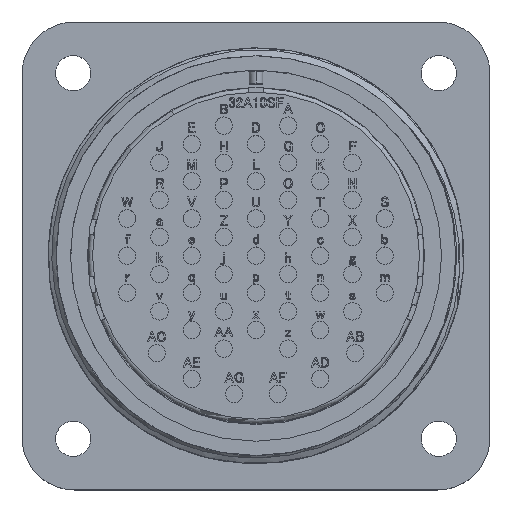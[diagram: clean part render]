
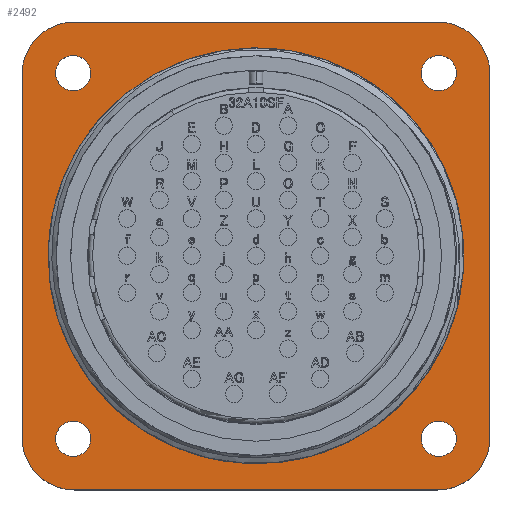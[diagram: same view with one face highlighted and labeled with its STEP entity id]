
A CAD part, top view. The second image highlights one B-rep face of the part: STEP entity #2492.
In plain terms, the highlighted planar face has unit normal (0, 0, 1).
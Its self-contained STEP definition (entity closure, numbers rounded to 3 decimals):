
#2492 = ADVANCED_FACE ( 'NONE', ( #12923, #63973, #73938, #9634, #24450, #121828 ), #16737, .F. ) ;
#2617 = CARTESIAN_POINT ( 'NONE',  ( -24.36, 22.225, -22.4 ) ) ;
#4227 = EDGE_CURVE ( 'NONE', #58449, #42141, #60973, .T. ) ;
#4319 = VERTEX_POINT ( 'NONE', #95445 ) ;
#5234 = CARTESIAN_POINT ( 'NONE',  ( -22.1, 22.1, -22.4 ) ) ;
#5376 = CARTESIAN_POINT ( 'NONE',  ( 22.225, 22.225, -22.4 ) ) ;
#5538 = EDGE_CURVE ( 'NONE', #49872, #49872, #9552, .T. ) ;
#6223 = CARTESIAN_POINT ( 'NONE',  ( -28.45, 22.1, -22.4 ) ) ;
#6331 = VECTOR ( 'NONE', #94462, 1000. ) ;
#6457 = AXIS2_PLACEMENT_3D ( 'NONE', #83675, #136167, #20904 ) ;
#8833 = DIRECTION ( 'NONE',  ( -1., 0., 0. ) ) ;
#9552 = CIRCLE ( 'NONE', #105139, 2.135 ) ;
#9634 = FACE_BOUND ( 'NONE', #55644, .T. ) ;
#9658 = LINE ( 'NONE', #73262, #6331 ) ;
#11248 = ORIENTED_EDGE ( 'NONE', *, *, #5538, .F. ) ;
#11341 = CARTESIAN_POINT ( 'NONE',  ( 22.1, 22.1, -22.4 ) ) ;
#11681 = DIRECTION ( 'NONE',  ( -1., 0., 0. ) ) ;
#12923 = FACE_BOUND ( 'NONE', #129204, .T. ) ;
#13513 = EDGE_LOOP ( 'NONE', ( #42553 ) ) ;
#15750 = CARTESIAN_POINT ( 'NONE',  ( -22.1, -22.1, -22.4 ) ) ;
#15958 = DIRECTION ( 'NONE',  ( 1., 0., 0. ) ) ;
#16737 = PLANE ( 'NONE',  #51232 ) ;
#18192 = CARTESIAN_POINT ( 'NONE',  ( -25.265, 0., -22.4 ) ) ;
#20536 = VECTOR ( 'NONE', #112002, 1000. ) ;
#20904 = DIRECTION ( 'NONE',  ( 1., 0., 0. ) ) ;
#21809 = VERTEX_POINT ( 'NONE', #110971 ) ;
#21920 = DIRECTION ( 'NONE',  ( 0., 0., 1. ) ) ;
#24450 = FACE_OUTER_BOUND ( 'NONE', #42156, .T. ) ;
#25414 = DIRECTION ( 'NONE',  ( 0., 0., 1. ) ) ;
#26849 = LINE ( 'NONE', #6223, #39940 ) ;
#27153 = CARTESIAN_POINT ( 'NONE',  ( 22.1, 28.45, -22.4 ) ) ;
#27517 = ORIENTED_EDGE ( 'NONE', *, *, #47953, .T. ) ;
#28333 = CARTESIAN_POINT ( 'NONE',  ( 24.36, 22.225, -22.4 ) ) ;
#30737 = AXIS2_PLACEMENT_3D ( 'NONE', #62980, #39767, #11681 ) ;
#31134 = EDGE_CURVE ( 'NONE', #42141, #84306, #82883, .T. ) ;
#36699 = CARTESIAN_POINT ( 'NONE',  ( 20.09, -22.225, -22.4 ) ) ;
#37138 = CARTESIAN_POINT ( 'NONE',  ( -20.09, -22.225, -22.4 ) ) ;
#38610 = EDGE_CURVE ( 'NONE', #94192, #58449, #88461, .T. ) ;
#39210 = AXIS2_PLACEMENT_3D ( 'NONE', #11341, #21920, #96170 ) ;
#39658 = DIRECTION ( 'NONE',  ( -1., 0., 0. ) ) ;
#39767 = DIRECTION ( 'NONE',  ( 0., 0., 1. ) ) ;
#39940 = VECTOR ( 'NONE', #103036, 1000. ) ;
#40426 = AXIS2_PLACEMENT_3D ( 'NONE', #45438, #98502, #66643 ) ;
#42141 = VERTEX_POINT ( 'NONE', #121765 ) ;
#42156 = EDGE_LOOP ( 'NONE', ( #98983, #62786, #81155, #115004, #68498, #27517, #110013, #58724 ) ) ;
#42553 = ORIENTED_EDGE ( 'NONE', *, *, #50211, .F. ) ;
#44439 = VECTOR ( 'NONE', #39658, 1000. ) ;
#44733 = VERTEX_POINT ( 'NONE', #18192 ) ;
#45438 = CARTESIAN_POINT ( 'NONE',  ( 22.1, -22.1, -22.4 ) ) ;
#46769 = DIRECTION ( 'NONE',  ( 0., 0., -1. ) ) ;
#47953 = EDGE_CURVE ( 'NONE', #96040, #94192, #99726, .T. ) ;
#49872 = VERTEX_POINT ( 'NONE', #2617 ) ;
#50211 = EDGE_CURVE ( 'NONE', #107606, #107606, #99327, .T. ) ;
#51232 = AXIS2_PLACEMENT_3D ( 'NONE', #5234, #46769, #120553 ) ;
#51351 = CARTESIAN_POINT ( 'NONE',  ( 28.45, 22.1, -22.4 ) ) ;
#51889 = CIRCLE ( 'NONE', #56214, 2.135 ) ;
#53258 = EDGE_CURVE ( 'NONE', #54784, #54784, #114528, .T. ) ;
#54784 = VERTEX_POINT ( 'NONE', #37138 ) ;
#55644 = EDGE_LOOP ( 'NONE', ( #135429 ) ) ;
#56214 = AXIS2_PLACEMENT_3D ( 'NONE', #5376, #79160, #15958 ) ;
#56357 = EDGE_LOOP ( 'NONE', ( #11248 ) ) ;
#58449 = VERTEX_POINT ( 'NONE', #27153 ) ;
#58724 = ORIENTED_EDGE ( 'NONE', *, *, #4227, .T. ) ;
#60973 = LINE ( 'NONE', #112574, #44439 ) ;
#62786 = ORIENTED_EDGE ( 'NONE', *, *, #68909, .T. ) ;
#62980 = CARTESIAN_POINT ( 'NONE',  ( -22.1, 22.1, -22.4 ) ) ;
#63030 = EDGE_CURVE ( 'NONE', #4319, #21809, #9658, .T. ) ;
#63973 = FACE_BOUND ( 'NONE', #13513, .T. ) ;
#66643 = DIRECTION ( 'NONE',  ( 1., 0., 0. ) ) ;
#67823 = CARTESIAN_POINT ( 'NONE',  ( -28.45, -22.1, -22.4 ) ) ;
#68498 = ORIENTED_EDGE ( 'NONE', *, *, #117169, .T. ) ;
#68767 = DIRECTION ( 'NONE',  ( 0., 0., 1. ) ) ;
#68909 = EDGE_CURVE ( 'NONE', #84306, #74108, #26849, .T. ) ;
#71981 = CARTESIAN_POINT ( 'NONE',  ( -22.225, 22.225, -22.4 ) ) ;
#72119 = AXIS2_PLACEMENT_3D ( 'NONE', #15750, #68767, #89134 ) ;
#73262 = CARTESIAN_POINT ( 'NONE',  ( -22.1, -28.45, -22.4 ) ) ;
#73938 = FACE_BOUND ( 'NONE', #56357, .T. ) ;
#74108 = VERTEX_POINT ( 'NONE', #67823 ) ;
#75518 = ORIENTED_EDGE ( 'NONE', *, *, #53258, .F. ) ;
#77079 = AXIS2_PLACEMENT_3D ( 'NONE', #116606, #128096, #85251 ) ;
#77111 = DIRECTION ( 'NONE',  ( -1., 0., 0. ) ) ;
#79160 = DIRECTION ( 'NONE',  ( 0., 0., 1. ) ) ;
#81155 = ORIENTED_EDGE ( 'NONE', *, *, #83648, .T. ) ;
#82718 = VERTEX_POINT ( 'NONE', #28333 ) ;
#82883 = CIRCLE ( 'NONE', #30737, 6.35 ) ;
#83648 = EDGE_CURVE ( 'NONE', #74108, #4319, #90770, .T. ) ;
#83675 = CARTESIAN_POINT ( 'NONE',  ( -22.225, -22.225, -22.4 ) ) ;
#84306 = VERTEX_POINT ( 'NONE', #85823 ) ;
#85251 = DIRECTION ( 'NONE',  ( -1., 0., 0. ) ) ;
#85823 = CARTESIAN_POINT ( 'NONE',  ( -28.45, 22.1, -22.4 ) ) ;
#88461 = CIRCLE ( 'NONE', #39210, 6.35 ) ;
#89134 = DIRECTION ( 'NONE',  ( -1., 0., 0. ) ) ;
#90770 = CIRCLE ( 'NONE', #72119, 6.35 ) ;
#91819 = DIRECTION ( 'NONE',  ( 0., 0., 1. ) ) ;
#94192 = VERTEX_POINT ( 'NONE', #51351 ) ;
#94462 = DIRECTION ( 'NONE',  ( 1., 0., 0. ) ) ;
#95445 = CARTESIAN_POINT ( 'NONE',  ( -22.1, -28.45, -22.4 ) ) ;
#95531 = AXIS2_PLACEMENT_3D ( 'NONE', #109823, #25414, #77111 ) ;
#96040 = VERTEX_POINT ( 'NONE', #99347 ) ;
#96170 = DIRECTION ( 'NONE',  ( -1., 0., 0. ) ) ;
#98502 = DIRECTION ( 'NONE',  ( 0., 0., 1. ) ) ;
#98877 = EDGE_LOOP ( 'NONE', ( #117921 ) ) ;
#98983 = ORIENTED_EDGE ( 'NONE', *, *, #31134, .T. ) ;
#99327 = CIRCLE ( 'NONE', #95531, 2.135 ) ;
#99347 = CARTESIAN_POINT ( 'NONE',  ( 28.45, -22.1, -22.4 ) ) ;
#99726 = LINE ( 'NONE', #123030, #20536 ) ;
#103036 = DIRECTION ( 'NONE',  ( 0., -1., 0. ) ) ;
#104357 = CIRCLE ( 'NONE', #40426, 6.35 ) ;
#105139 = AXIS2_PLACEMENT_3D ( 'NONE', #71981, #91819, #8833 ) ;
#106902 = EDGE_CURVE ( 'NONE', #44733, #44733, #132368, .T. ) ;
#107606 = VERTEX_POINT ( 'NONE', #36699 ) ;
#109823 = CARTESIAN_POINT ( 'NONE',  ( 22.225, -22.225, -22.4 ) ) ;
#110013 = ORIENTED_EDGE ( 'NONE', *, *, #38610, .T. ) ;
#110971 = CARTESIAN_POINT ( 'NONE',  ( 22.1, -28.45, -22.4 ) ) ;
#112002 = DIRECTION ( 'NONE',  ( 0., 1., 0. ) ) ;
#112574 = CARTESIAN_POINT ( 'NONE',  ( -22.1, 28.45, -22.4 ) ) ;
#113694 = EDGE_CURVE ( 'NONE', #82718, #82718, #51889, .T. ) ;
#114528 = CIRCLE ( 'NONE', #6457, 2.135 ) ;
#115004 = ORIENTED_EDGE ( 'NONE', *, *, #63030, .T. ) ;
#116606 = CARTESIAN_POINT ( 'NONE',  ( 0., 0., -22.4 ) ) ;
#117169 = EDGE_CURVE ( 'NONE', #21809, #96040, #104357, .T. ) ;
#117921 = ORIENTED_EDGE ( 'NONE', *, *, #106902, .F. ) ;
#120553 = DIRECTION ( 'NONE',  ( -1., 0., 0. ) ) ;
#121765 = CARTESIAN_POINT ( 'NONE',  ( -22.1, 28.45, -22.4 ) ) ;
#121828 = FACE_BOUND ( 'NONE', #98877, .T. ) ;
#123030 = CARTESIAN_POINT ( 'NONE',  ( 28.45, 22.1, -22.4 ) ) ;
#128096 = DIRECTION ( 'NONE',  ( 0., 0., 1. ) ) ;
#129204 = EDGE_LOOP ( 'NONE', ( #75518 ) ) ;
#132368 = CIRCLE ( 'NONE', #77079, 25.265 ) ;
#135429 = ORIENTED_EDGE ( 'NONE', *, *, #113694, .F. ) ;
#136167 = DIRECTION ( 'NONE',  ( 0., 0., 1. ) ) ;
